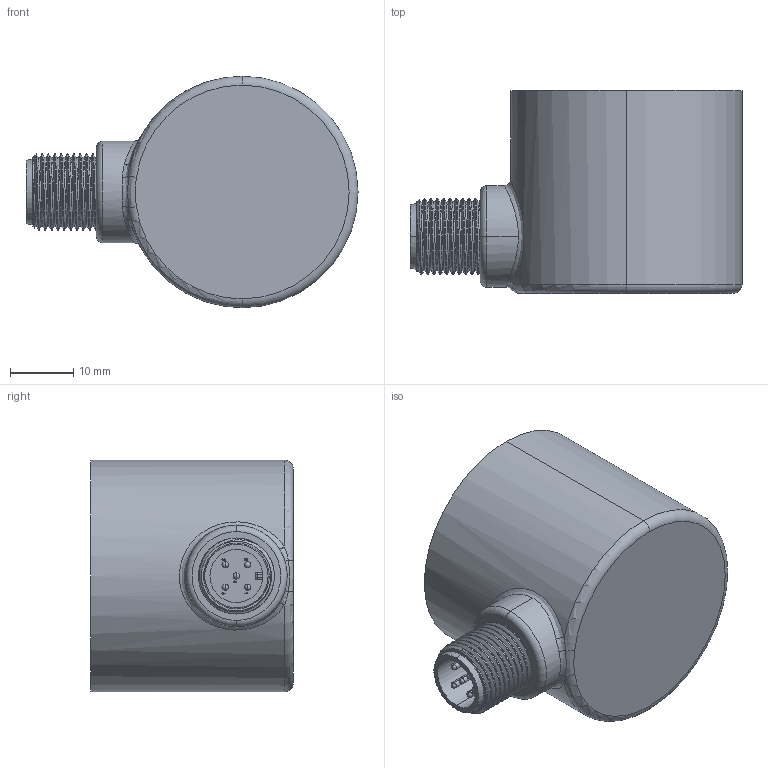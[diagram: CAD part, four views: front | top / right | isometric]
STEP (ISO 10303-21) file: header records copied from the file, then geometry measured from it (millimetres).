
FILE_DESCRIPTION (( 'STEP AP214' ), '1' );
FILE_NAME ('drawing-mc-3-cr-320-szs-nnn0mf-n-pr5-n.STEP', '2023-09-13T11:46:36', ( '' ), ( '' ), 'SwSTEP 2.0', 'SolidWorks 2022', '' );
FILE_SCHEMA (( 'AUTOMOTIVE_DESIGN' ));
Length unit declared in the file: millimetre
Products named in the file (1): drawing-mc-3-cr-320-szs-nnn0mf-n-pr5-n
Bounding box: 52.35 x 32 x 36.5 mm (x, y, z)
Volume: 5520 mm3; surface area: 13272.5 mm2
Topology: 2 solids, 2 shells, 245 faces, 625 edges, 400 vertices
Faces by surface type: cylinder 91, plane 75, bspline 42, torus 21, sphere 11, cone 5
Entity records: 14374 total; most frequent: CARTESIAN_POINT 6229, ORIENTED_EDGE 1206, DIRECTION 999, EDGE_CURVE 603, VERTEX_POINT 390, AXIS2_PLACEMENT_3D 366, EDGE_LOOP 273, LINE 267
